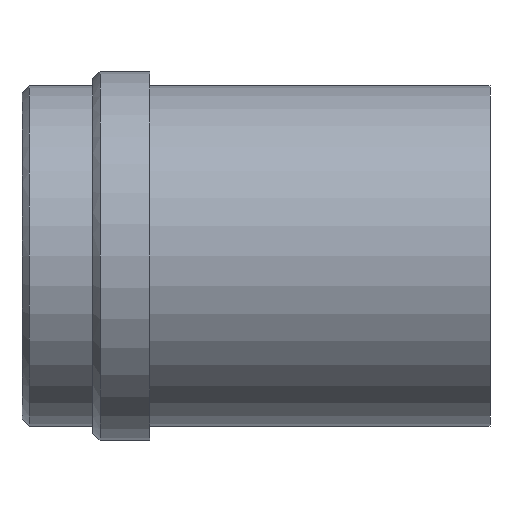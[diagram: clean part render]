
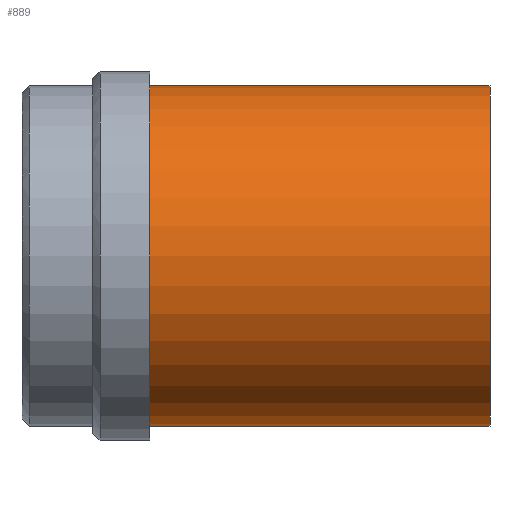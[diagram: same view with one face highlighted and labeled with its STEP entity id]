
A CAD part, front view. The second image highlights one B-rep face of the part: STEP entity #889.
In plain terms, the highlighted cylindrical face has radius 24 mm (diameter 48 mm), a partial arc.
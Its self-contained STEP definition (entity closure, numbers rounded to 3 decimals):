
#723=CARTESIAN_POINT('Vertex',(48.,0.,24.)) ;
#726=CARTESIAN_POINT('Axis2P3D Location',(48.,0.,0.)) ;
#730=CARTESIAN_POINT('Vertex',(48.,-24.,0.)) ;
#733=CARTESIAN_POINT('Axis2P3D Location',(48.,0.,0.)) ;
#737=CARTESIAN_POINT('Vertex',(48.,0.,-24.)) ;
#829=CARTESIAN_POINT('Line Origine',(48.,0.,24.)) ;
#833=CARTESIAN_POINT('Vertex',(0.,0.,24.)) ;
#836=CARTESIAN_POINT('Line Origine',(48.,0.,-24.)) ;
#840=CARTESIAN_POINT('Vertex',(0.,0.,-24.)) ;
#864=CARTESIAN_POINT('Axis2P3D Location',(48.,0.,0.)) ;
#869=CARTESIAN_POINT('Axis2P3D Location',(0.,0.,0.)) ;
#873=CARTESIAN_POINT('Vertex',(0.,-24.,0.)) ;
#876=CARTESIAN_POINT('Axis2P3D Location',(0.,0.,0.)) ;
#727=DIRECTION('Axis2P3D Direction',(1.,0.,-0.)) ;
#734=DIRECTION('Axis2P3D Direction',(1.,0.,-0.)) ;
#830=DIRECTION('Vector Direction',(-1.,0.,0.)) ;
#837=DIRECTION('Vector Direction',(-1.,0.,0.)) ;
#865=DIRECTION('Axis2P3D Direction',(-1.,-0.,-0.)) ;
#866=DIRECTION('Axis2P3D XDirection',(0.,0.,-1.)) ;
#870=DIRECTION('Axis2P3D Direction',(-1.,-0.,-0.)) ;
#877=DIRECTION('Axis2P3D Direction',(-1.,-0.,-0.)) ;
#728=AXIS2_PLACEMENT_3D('Circle Axis2P3D',#726,#727,$) ;
#735=AXIS2_PLACEMENT_3D('Circle Axis2P3D',#733,#734,$) ;
#867=AXIS2_PLACEMENT_3D('Cylinder Axis2P3D',#864,#865,#866) ;
#871=AXIS2_PLACEMENT_3D('Circle Axis2P3D',#869,#870,$) ;
#878=AXIS2_PLACEMENT_3D('Circle Axis2P3D',#876,#877,$) ;
#882=ORIENTED_EDGE('',*,*,#842,.T.) ;
#883=ORIENTED_EDGE('',*,*,#739,.F.) ;
#884=ORIENTED_EDGE('',*,*,#732,.F.) ;
#885=ORIENTED_EDGE('',*,*,#835,.T.) ;
#886=ORIENTED_EDGE('',*,*,#875,.T.) ;
#887=ORIENTED_EDGE('',*,*,#880,.T.) ;
#831=VECTOR('Line Direction',#830,1.) ;
#838=VECTOR('Line Direction',#837,1.) ;
#889=ADVANCED_FACE('358-40X66',(#888),#868,.T.) ;
#729=CIRCLE('generated circle',#728,24.) ;
#736=CIRCLE('generated circle',#735,24.) ;
#872=CIRCLE('generated circle',#871,24.) ;
#879=CIRCLE('generated circle',#878,24.) ;
#868=CYLINDRICAL_SURFACE('generated cylinder',#867,24.) ;
#732=EDGE_CURVE('',#724,#731,#729,.T.) ;
#739=EDGE_CURVE('',#731,#738,#736,.T.) ;
#835=EDGE_CURVE('',#724,#834,#832,.T.) ;
#842=EDGE_CURVE('',#841,#738,#839,.F.) ;
#875=EDGE_CURVE('',#834,#874,#872,.F.) ;
#880=EDGE_CURVE('',#874,#841,#879,.F.) ;
#881=EDGE_LOOP('',(#882,#883,#884,#885,#886,#887)) ;
#888=FACE_OUTER_BOUND('',#881,.T.) ;
#832=LINE('Line',#829,#831) ;
#839=LINE('Line',#836,#838) ;
#724=VERTEX_POINT('',#723) ;
#731=VERTEX_POINT('',#730) ;
#738=VERTEX_POINT('',#737) ;
#834=VERTEX_POINT('',#833) ;
#841=VERTEX_POINT('',#840) ;
#874=VERTEX_POINT('',#873) ;
